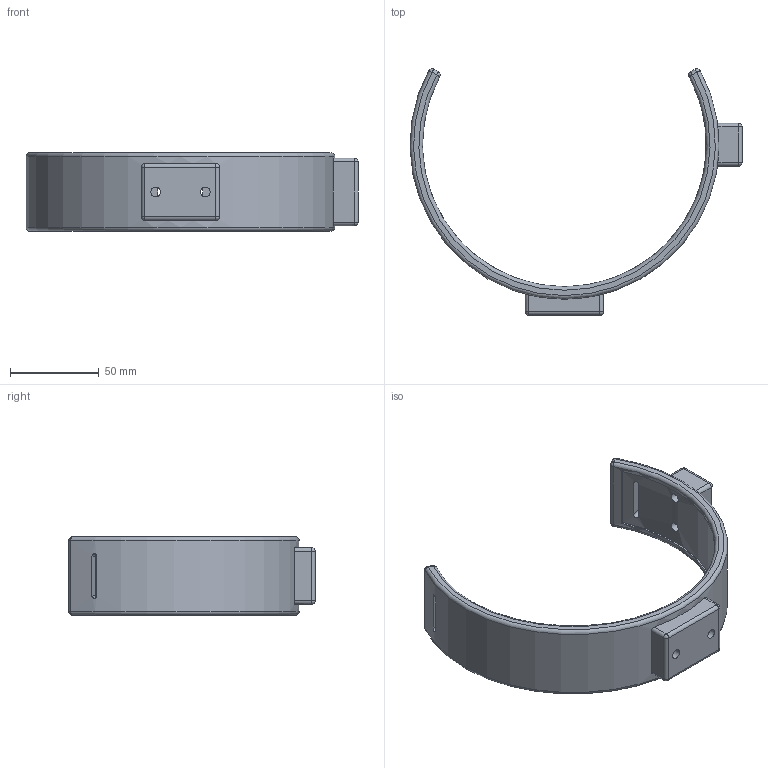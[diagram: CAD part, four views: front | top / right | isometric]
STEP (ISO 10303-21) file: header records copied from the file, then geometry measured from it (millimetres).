
FILE_DESCRIPTION(('Open CASCADE Model'),'2;1');
FILE_NAME('Open CASCADE Shape Model','2026-11-04T08:45:13',('Author'),( 'Open CASCADE'),'Open CASCADE STEP processor 7.8','Open CASCADE 7.8' ,'Unknown');
FILE_SCHEMA(('AUTOMOTIVE_DESIGN { 1 0 10303 214 1 1 1 1 }'));
Length unit declared in the file: millimetre
Products named in the file (1): Open CASCADE STEP translator 7.8 5
Bounding box: 186.99 x 138.75 x 44 mm (x, y, z)
Volume: 117974 mm3; surface area: 40195.3 mm2
Topology: 1 solids, 1 shells, 79 faces, 190 edges, 100 vertices
Faces by surface type: cylinder 35, plane 24, sphere 16, torus 4
Full cylindrical faces by diameter (mm): 5.5 x4
Entity records: 5712 total; most frequent: CARTESIAN_POINT 2254, DIRECTION 622, ORIENTED_EDGE 348, PCURVE 348, DEFINITIONAL_REPRESENTATION 348, LINE 306, VECTOR 306, EDGE_CURVE 174
